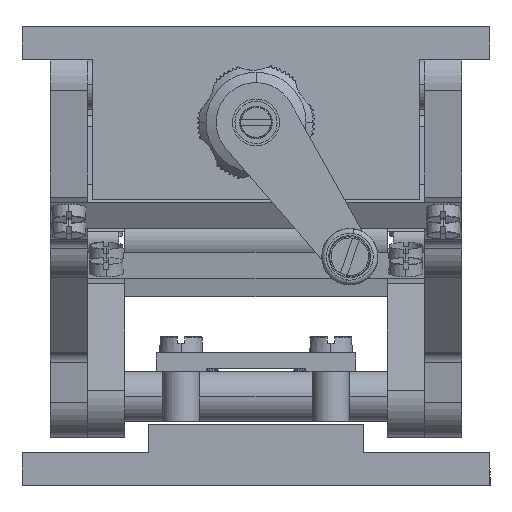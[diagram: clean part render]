
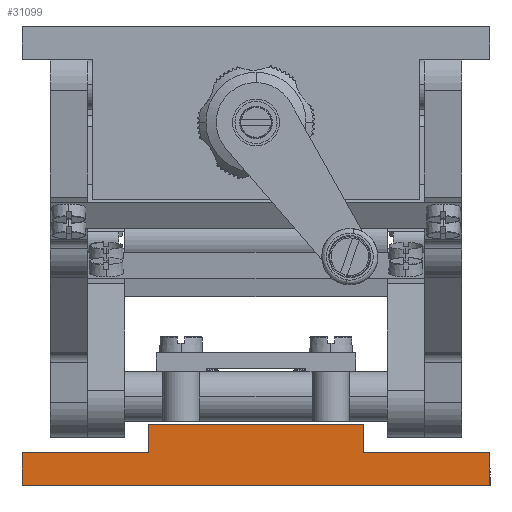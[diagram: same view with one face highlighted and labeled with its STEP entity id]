
A CAD part, left-side view. The second image highlights one B-rep face of the part: STEP entity #31099.
In plain terms, the highlighted planar face has unit normal (-1, 0, 0).
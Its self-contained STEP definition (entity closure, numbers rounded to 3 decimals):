
#482 = CARTESIAN_POINT ( 'NONE',  ( -82.295, -26.553, 133.5 ) ) ;
#1479 = CARTESIAN_POINT ( 'NONE',  ( -82.295, 46.447, 133.5 ) ) ;
#1814 = CARTESIAN_POINT ( 'NONE',  ( -82.295, 19.447, 139.5 ) ) ;
#1839 = VERTEX_POINT ( 'NONE', #12055 ) ;
#2075 = ORIENTED_EDGE ( 'NONE', *, *, #39658, .F. ) ;
#2267 = EDGE_CURVE ( 'NONE', #30966, #21424, #31399, .T. ) ;
#2321 = VECTOR ( 'NONE', #16466, 1000. ) ;
#2702 = LINE ( 'NONE', #1814, #22309 ) ;
#3611 = CARTESIAN_POINT ( 'NONE',  ( -82.295, -53.553, 126.5 ) ) ;
#4486 = ORIENTED_EDGE ( 'NONE', *, *, #8772, .T. ) ;
#4679 = EDGE_CURVE ( 'NONE', #37804, #1839, #30533, .T. ) ;
#5736 = CARTESIAN_POINT ( 'NONE',  ( -82.295, 19.447, 133.5 ) ) ;
#6266 = VERTEX_POINT ( 'NONE', #25916 ) ;
#6475 = AXIS2_PLACEMENT_3D ( 'NONE', #8783, #35908, #24348 ) ;
#8159 = CARTESIAN_POINT ( 'NONE',  ( -82.295, 46.447, 133.5 ) ) ;
#8772 = EDGE_CURVE ( 'NONE', #32936, #21424, #2702, .T. ) ;
#8783 = CARTESIAN_POINT ( 'NONE',  ( -82.295, 46.447, 133.5 ) ) ;
#11786 = ORIENTED_EDGE ( 'NONE', *, *, #29538, .F. ) ;
#12055 = CARTESIAN_POINT ( 'NONE',  ( -82.295, -53.553, 133.5 ) ) ;
#12752 = LINE ( 'NONE', #19899, #2321 ) ;
#13272 = VERTEX_POINT ( 'NONE', #30055 ) ;
#13626 = VECTOR ( 'NONE', #30100, 1000. ) ;
#13674 = LINE ( 'NONE', #29173, #15523 ) ;
#15523 = VECTOR ( 'NONE', #21152, 1000. ) ;
#16466 = DIRECTION ( 'NONE',  ( 0., 0., -1. ) ) ;
#17034 = LINE ( 'NONE', #24902, #45633 ) ;
#18805 = ORIENTED_EDGE ( 'NONE', *, *, #36167, .F. ) ;
#19899 = CARTESIAN_POINT ( 'NONE',  ( -82.295, -26.553, 139.5 ) ) ;
#20127 = VECTOR ( 'NONE', #40030, 1000. ) ;
#21152 = DIRECTION ( 'NONE',  ( 0., 0., 1. ) ) ;
#21424 = VERTEX_POINT ( 'NONE', #5736 ) ;
#21627 = LINE ( 'NONE', #49525, #29560 ) ;
#22309 = VECTOR ( 'NONE', #48667, 1000. ) ;
#23184 = ORIENTED_EDGE ( 'NONE', *, *, #44357, .T. ) ;
#23393 = ORIENTED_EDGE ( 'NONE', *, *, #44273, .T. ) ;
#24348 = DIRECTION ( 'NONE',  ( 0., 0., -1. ) ) ;
#24902 = CARTESIAN_POINT ( 'NONE',  ( -82.295, -26.553, 139.5 ) ) ;
#25916 = CARTESIAN_POINT ( 'NONE',  ( -82.295, -26.553, 139.5 ) ) ;
#27751 = VERTEX_POINT ( 'NONE', #3611 ) ;
#28087 = LINE ( 'NONE', #48559, #45043 ) ;
#28090 = ORIENTED_EDGE ( 'NONE', *, *, #2267, .F. ) ;
#29156 = DIRECTION ( 'NONE',  ( 0., -1., 0. ) ) ;
#29173 = CARTESIAN_POINT ( 'NONE',  ( -82.295, -53.553, 133.5 ) ) ;
#29217 = DIRECTION ( 'NONE',  ( 0., 0., 1. ) ) ;
#29538 = EDGE_CURVE ( 'NONE', #32936, #6266, #17034, .T. ) ;
#29560 = VECTOR ( 'NONE', #37787, 1000. ) ;
#30055 = CARTESIAN_POINT ( 'NONE',  ( -82.295, 46.447, 126.5 ) ) ;
#30100 = DIRECTION ( 'NONE',  ( 0., -1., 0. ) ) ;
#30533 = LINE ( 'NONE', #1479, #20127 ) ;
#30966 = VERTEX_POINT ( 'NONE', #47107 ) ;
#31099 = ADVANCED_FACE ( 'NONE', ( #42554 ), #43357, .F. ) ;
#31399 = LINE ( 'NONE', #8159, #13626 ) ;
#32936 = VERTEX_POINT ( 'NONE', #44807 ) ;
#34747 = ORIENTED_EDGE ( 'NONE', *, *, #4679, .F. ) ;
#35908 = DIRECTION ( 'NONE',  ( 1., 0., 0. ) ) ;
#36167 = EDGE_CURVE ( 'NONE', #13272, #30966, #28087, .T. ) ;
#37787 = DIRECTION ( 'NONE',  ( 0., -1., 0. ) ) ;
#37804 = VERTEX_POINT ( 'NONE', #482 ) ;
#39658 = EDGE_CURVE ( 'NONE', #6266, #37804, #12752, .T. ) ;
#40030 = DIRECTION ( 'NONE',  ( 0., -1., 0. ) ) ;
#42554 = FACE_OUTER_BOUND ( 'NONE', #47354, .T. ) ;
#43357 = PLANE ( 'NONE',  #6475 ) ;
#44273 = EDGE_CURVE ( 'NONE', #27751, #1839, #13674, .T. ) ;
#44357 = EDGE_CURVE ( 'NONE', #13272, #27751, #21627, .T. ) ;
#44807 = CARTESIAN_POINT ( 'NONE',  ( -82.295, 19.447, 139.5 ) ) ;
#45043 = VECTOR ( 'NONE', #29217, 1000. ) ;
#45633 = VECTOR ( 'NONE', #29156, 1000. ) ;
#47107 = CARTESIAN_POINT ( 'NONE',  ( -82.295, 46.447, 133.5 ) ) ;
#47354 = EDGE_LOOP ( 'NONE', ( #23393, #34747, #2075, #11786, #4486, #28090, #18805, #23184 ) ) ;
#48559 = CARTESIAN_POINT ( 'NONE',  ( -82.295, 46.447, 133.5 ) ) ;
#48667 = DIRECTION ( 'NONE',  ( 0., 0., -1. ) ) ;
#49525 = CARTESIAN_POINT ( 'NONE',  ( -82.295, -3.553, 126.5 ) ) ;
